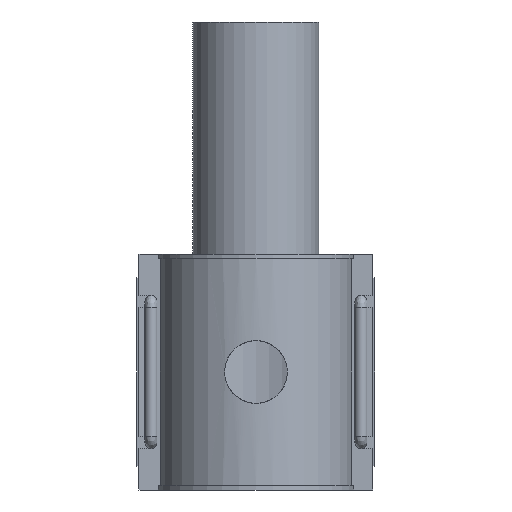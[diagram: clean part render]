
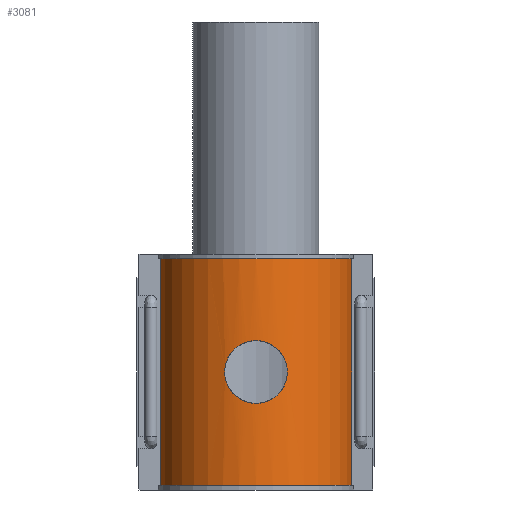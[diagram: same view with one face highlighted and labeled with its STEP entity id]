
A CAD part, front view. The second image highlights one B-rep face of the part: STEP entity #3081.
In plain terms, the highlighted cylindrical face has radius 48.75 mm (diameter 97.5 mm), a partial arc.
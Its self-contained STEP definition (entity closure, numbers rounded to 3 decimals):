
#42=FACE_BOUND('',#417,.T.);
#182=B_SPLINE_CURVE_WITH_KNOTS('',3,(#4557,#4558,#4559,#4560,#4561,#4562,
#4563,#4564,#4565,#4566,#4567,#4568,#4569,#4570,#4571,#4572,#4573,#4574,
#4575,#4576,#4577,#4578,#4579,#4580,#4581,#4582,#4583,#4584,#4585,#4586),
 .UNSPECIFIED.,.F.,.F.,(4,2,2,2,2,2,2,2,2,2,2,2,2,2,4),(0.,0.298,
0.595,1.191,1.488,1.786,2.083,
2.381,2.679,2.976,3.274,3.571,
4.167,4.464,4.762),.UNSPECIFIED.);
#183=B_SPLINE_CURVE_WITH_KNOTS('',3,(#4587,#4588,#4589,#4590,#4591,#4592,
#4593,#4594,#4595,#4596,#4597,#4598,#4599,#4600,#4601,#4602,#4603,#4604,
#4605,#4606,#4607,#4608,#4609,#4610,#4611,#4612,#4613,#4614,#4615,#4616),
 .UNSPECIFIED.,.F.,.F.,(4,2,2,2,2,2,2,2,2,2,2,2,2,2,4),(4.762,
5.06,5.357,5.953,6.25,6.548,
6.845,7.143,7.44,7.738,8.036,
8.333,8.929,9.226,9.524),
 .UNSPECIFIED.);
#232=FACE_OUTER_BOUND('',#416,.T.);
#416=EDGE_LOOP('',(#2214,#2215,#2216,#2217));
#417=EDGE_LOOP('',(#2218,#2219));
#613=CIRCLE('',#3284,48.75);
#621=CIRCLE('',#3298,48.75);
#755=LINE('',#4934,#1050);
#790=LINE('',#5153,#1085);
#1050=VECTOR('',#3635,10.);
#1085=VECTOR('',#3712,10.);
#1337=VERTEX_POINT('',#4554);
#1338=VERTEX_POINT('',#4556);
#1354=VERTEX_POINT('',#4919);
#1355=VERTEX_POINT('',#4921);
#1359=VERTEX_POINT('',#4933);
#1376=VERTEX_POINT('',#4976);
#1639=EDGE_CURVE('',#1338,#1337,#182,.T.);
#1640=EDGE_CURVE('',#1337,#1338,#183,.T.);
#1661=EDGE_CURVE('',#1354,#1355,#613,.T.);
#1666=EDGE_CURVE('',#1354,#1359,#755,.T.);
#1688=EDGE_CURVE('',#1376,#1359,#621,.T.);
#1723=EDGE_CURVE('',#1355,#1376,#790,.T.);
#2214=ORIENTED_EDGE('',*,*,#1661,.T.);
#2215=ORIENTED_EDGE('',*,*,#1723,.T.);
#2216=ORIENTED_EDGE('',*,*,#1688,.T.);
#2217=ORIENTED_EDGE('',*,*,#1666,.F.);
#2218=ORIENTED_EDGE('',*,*,#1639,.T.);
#2219=ORIENTED_EDGE('',*,*,#1640,.T.);
#3024=CYLINDRICAL_SURFACE('',#3308,48.75);
#3081=ADVANCED_FACE('',(#232,#42),#3024,.T.);
#3284=AXIS2_PLACEMENT_3D('',#4923,#3625,#3626);
#3298=AXIS2_PLACEMENT_3D('',#4977,#3672,#3673);
#3308=AXIS2_PLACEMENT_3D('',#5154,#3713,#3714);
#3625=DIRECTION('center_axis',(0.,0.,1.));
#3626=DIRECTION('ref_axis',(1.,0.,0.));
#3635=DIRECTION('',(0.,0.,1.));
#3672=DIRECTION('center_axis',(0.,0.,-1.));
#3673=DIRECTION('ref_axis',(1.,0.,0.));
#3712=DIRECTION('',(0.,0.,1.));
#3713=DIRECTION('center_axis',(0.,0.,1.));
#3714=DIRECTION('ref_axis',(1.,0.,0.));
#4554=CARTESIAN_POINT('',(-15.68,-46.16,0.));
#4556=CARTESIAN_POINT('',(15.68,-46.16,0.));
#4557=CARTESIAN_POINT('Ctrl Pts',(15.68,-46.16,0.));
#4558=CARTESIAN_POINT('Ctrl Pts',(15.68,-46.16,-0.992));
#4559=CARTESIAN_POINT('Ctrl Pts',(15.584,-46.192,-2.016));
#4560=CARTESIAN_POINT('Ctrl Pts',(15.184,-46.326,-4.048));
#4561=CARTESIAN_POINT('Ctrl Pts',(14.879,-46.426,-5.055));
#4562=CARTESIAN_POINT('Ctrl Pts',(13.676,-46.8,-7.949));
#4563=CARTESIAN_POINT('Ctrl Pts',(12.472,-47.149,-9.703));
#4564=CARTESIAN_POINT('Ctrl Pts',(10.395,-47.634,-11.779));
#4565=CARTESIAN_POINT('Ctrl Pts',(9.613,-47.801,-12.43));
#4566=CARTESIAN_POINT('Ctrl Pts',(7.908,-48.112,-13.579));
#4567=CARTESIAN_POINT('Ctrl Pts',(6.985,-48.257,-14.077));
#4568=CARTESIAN_POINT('Ctrl Pts',(5.055,-48.497,-14.88));
#4569=CARTESIAN_POINT('Ctrl Pts',(4.047,-48.592,-15.184));
#4570=CARTESIAN_POINT('Ctrl Pts',(2.015,-48.719,-15.584));
#4571=CARTESIAN_POINT('Ctrl Pts',(0.992,-48.75,-15.68));
#4572=CARTESIAN_POINT('Ctrl Pts',(-0.992,-48.75,-15.68));
#4573=CARTESIAN_POINT('Ctrl Pts',(-2.015,-48.719,-15.584));
#4574=CARTESIAN_POINT('Ctrl Pts',(-4.047,-48.592,-15.184));
#4575=CARTESIAN_POINT('Ctrl Pts',(-5.055,-48.497,-14.88));
#4576=CARTESIAN_POINT('Ctrl Pts',(-6.985,-48.257,-14.077));
#4577=CARTESIAN_POINT('Ctrl Pts',(-7.908,-48.112,-13.579));
#4578=CARTESIAN_POINT('Ctrl Pts',(-9.613,-47.801,-12.43));
#4579=CARTESIAN_POINT('Ctrl Pts',(-10.395,-47.634,-11.779));
#4580=CARTESIAN_POINT('Ctrl Pts',(-12.472,-47.149,-9.703));
#4581=CARTESIAN_POINT('Ctrl Pts',(-13.676,-46.8,-7.949));
#4582=CARTESIAN_POINT('Ctrl Pts',(-14.879,-46.426,-5.055));
#4583=CARTESIAN_POINT('Ctrl Pts',(-15.184,-46.326,-4.048));
#4584=CARTESIAN_POINT('Ctrl Pts',(-15.584,-46.192,-2.016));
#4585=CARTESIAN_POINT('Ctrl Pts',(-15.68,-46.16,-0.992));
#4586=CARTESIAN_POINT('Ctrl Pts',(-15.68,-46.16,0.));
#4587=CARTESIAN_POINT('Ctrl Pts',(-15.68,-46.16,0.));
#4588=CARTESIAN_POINT('Ctrl Pts',(-15.68,-46.16,0.992));
#4589=CARTESIAN_POINT('Ctrl Pts',(-15.584,-46.192,2.016));
#4590=CARTESIAN_POINT('Ctrl Pts',(-15.184,-46.326,4.048));
#4591=CARTESIAN_POINT('Ctrl Pts',(-14.879,-46.426,5.055));
#4592=CARTESIAN_POINT('Ctrl Pts',(-13.676,-46.8,7.949));
#4593=CARTESIAN_POINT('Ctrl Pts',(-12.472,-47.149,9.703));
#4594=CARTESIAN_POINT('Ctrl Pts',(-10.395,-47.634,11.779));
#4595=CARTESIAN_POINT('Ctrl Pts',(-9.613,-47.801,12.43));
#4596=CARTESIAN_POINT('Ctrl Pts',(-7.908,-48.112,13.579));
#4597=CARTESIAN_POINT('Ctrl Pts',(-6.985,-48.257,14.077));
#4598=CARTESIAN_POINT('Ctrl Pts',(-5.055,-48.497,14.88));
#4599=CARTESIAN_POINT('Ctrl Pts',(-4.047,-48.592,15.184));
#4600=CARTESIAN_POINT('Ctrl Pts',(-2.015,-48.719,15.584));
#4601=CARTESIAN_POINT('Ctrl Pts',(-0.992,-48.75,15.68));
#4602=CARTESIAN_POINT('Ctrl Pts',(0.992,-48.75,15.68));
#4603=CARTESIAN_POINT('Ctrl Pts',(2.015,-48.719,15.584));
#4604=CARTESIAN_POINT('Ctrl Pts',(4.047,-48.592,15.184));
#4605=CARTESIAN_POINT('Ctrl Pts',(5.055,-48.497,14.88));
#4606=CARTESIAN_POINT('Ctrl Pts',(6.985,-48.257,14.077));
#4607=CARTESIAN_POINT('Ctrl Pts',(7.908,-48.112,13.579));
#4608=CARTESIAN_POINT('Ctrl Pts',(9.613,-47.801,12.43));
#4609=CARTESIAN_POINT('Ctrl Pts',(10.395,-47.634,11.779));
#4610=CARTESIAN_POINT('Ctrl Pts',(12.472,-47.149,9.703));
#4611=CARTESIAN_POINT('Ctrl Pts',(13.676,-46.8,7.949));
#4612=CARTESIAN_POINT('Ctrl Pts',(14.879,-46.426,5.055));
#4613=CARTESIAN_POINT('Ctrl Pts',(15.184,-46.326,4.048));
#4614=CARTESIAN_POINT('Ctrl Pts',(15.584,-46.192,2.016));
#4615=CARTESIAN_POINT('Ctrl Pts',(15.68,-46.16,0.992));
#4616=CARTESIAN_POINT('Ctrl Pts',(15.68,-46.16,0.));
#4919=CARTESIAN_POINT('',(-47.84,-9.375,-56.64));
#4921=CARTESIAN_POINT('',(47.84,-9.375,-56.64));
#4923=CARTESIAN_POINT('Origin',(0.,0.,-56.64));
#4933=CARTESIAN_POINT('',(-47.84,-9.375,56.64));
#4934=CARTESIAN_POINT('',(-47.84,-9.375,0.));
#4976=CARTESIAN_POINT('',(47.84,-9.375,56.64));
#4977=CARTESIAN_POINT('Origin',(0.,0.,56.64));
#5153=CARTESIAN_POINT('',(47.84,-9.375,0.));
#5154=CARTESIAN_POINT('Origin',(0.,0.,0.));
